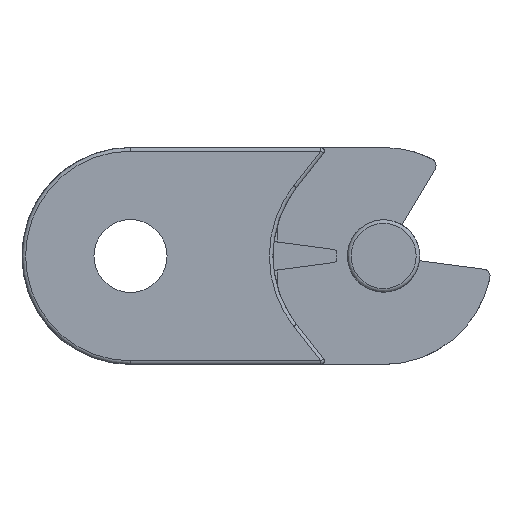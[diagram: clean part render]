
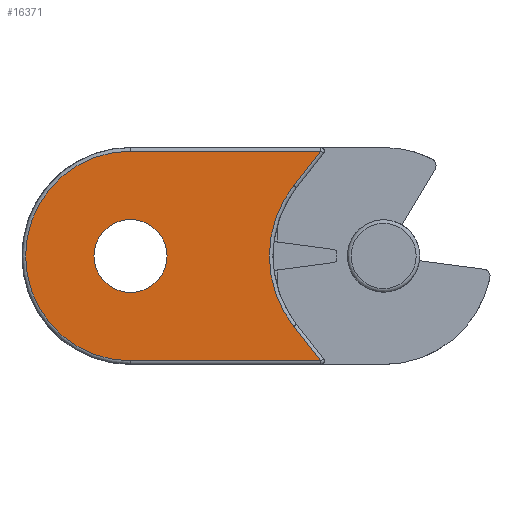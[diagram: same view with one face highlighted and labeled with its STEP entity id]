
A CAD part, left-side view. The second image highlights one B-rep face of the part: STEP entity #16371.
In plain terms, the highlighted planar face has unit normal (-1, 0, 0).
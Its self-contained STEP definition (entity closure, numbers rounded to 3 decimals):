
#12546=CARTESIAN_POINT('',(0.0,12.85,15.));
#12547=VERTEX_POINT('',#12546);
#12548=CARTESIAN_POINT('',(0.0,17.9,15.));
#12549=DIRECTION('',(-1.0,0.0,0.0));
#12550=DIRECTION('',(0.0,1.0,0.0));
#12551=AXIS2_PLACEMENT_3D('',#12548,#12549,#12550);
#12552=CIRCLE('',#12551,5.05);
#12553=EDGE_CURVE('',#12547,#12547,#12552,.T.);
#12992=CARTESIAN_POINT('',(0.,-8.393,0.5));
#12993=VERTEX_POINT('',#12992);
#13017=CARTESIAN_POINT('',(0.,-8.393,29.5));
#13018=VERTEX_POINT('',#13017);
#13043=CARTESIAN_POINT('',(0.,-4.668,5.249));
#13044=VERTEX_POINT('',#13043);
#13052=CARTESIAN_POINT('',(0.,-8.393,0.5));
#13053=DIRECTION('',(0.0,0.617,0.787));
#13054=VECTOR('',#13053,6.035);
#13055=LINE('',#13052,#13054);
#13056=EDGE_CURVE('',#12993,#13044,#13055,.T.);
#13090=CARTESIAN_POINT('',(0.,-4.668,24.751));
#13091=VERTEX_POINT('',#13090);
#13099=CARTESIAN_POINT('',(0.,-17.1,15.));
#13100=DIRECTION('',(1.0,0.0,0.0));
#13101=DIRECTION('',(0.0,1.,0.));
#13102=AXIS2_PLACEMENT_3D('',#13099,#13100,#13101);
#13103=CIRCLE('',#13102,15.8);
#13104=EDGE_CURVE('',#13044,#13091,#13103,.T.);
#13117=CARTESIAN_POINT('',(0.,-4.668,24.751));
#13118=DIRECTION('',(0.0,-0.617,0.787));
#13119=VECTOR('',#13118,6.035);
#13120=LINE('',#13117,#13119);
#13121=EDGE_CURVE('',#13091,#13018,#13120,.T.);
#13139=CARTESIAN_POINT('',(0.0,17.9,0.5));
#13140=VERTEX_POINT('',#13139);
#13157=CARTESIAN_POINT('',(0.0,17.9,0.5));
#13158=DIRECTION('',(0.0,-1.0,0.0));
#13159=VECTOR('',#13158,26.293);
#13160=LINE('',#13157,#13159);
#13161=EDGE_CURVE('',#13140,#12993,#13160,.T.);
#13171=CARTESIAN_POINT('',(0.0,17.9,29.5));
#13172=VERTEX_POINT('',#13171);
#13173=CARTESIAN_POINT('',(0.0,17.9,15.));
#13174=DIRECTION('',(-1.0,0.0,0.0));
#13175=DIRECTION('',(0.0,1.0,0.0));
#13176=AXIS2_PLACEMENT_3D('',#13173,#13174,#13175);
#13177=CIRCLE('',#13176,14.5);
#13178=EDGE_CURVE('',#13172,#13140,#13177,.T.);
#13213=CARTESIAN_POINT('',(0.,-8.393,29.5));
#13214=DIRECTION('',(0.0,1.0,0.0));
#13215=VECTOR('',#13214,26.293);
#13216=LINE('',#13213,#13215);
#13217=EDGE_CURVE('',#13018,#13172,#13216,.T.);
#16355=CARTESIAN_POINT('',(0.0,12.004,15.));
#16356=DIRECTION('',(-1.0,0.0,0.0));
#16357=DIRECTION('',(0.0,1.0,0.0));
#16358=AXIS2_PLACEMENT_3D('',#16355,#16356,#16357);
#16359=PLANE('',#16358);
#16360=ORIENTED_EDGE('',*,*,#13217,.T.);
#16361=ORIENTED_EDGE('',*,*,#13178,.T.);
#16362=ORIENTED_EDGE('',*,*,#13161,.T.);
#16363=ORIENTED_EDGE('',*,*,#13056,.T.);
#16364=ORIENTED_EDGE('',*,*,#13104,.T.);
#16365=ORIENTED_EDGE('',*,*,#13121,.T.);
#16366=EDGE_LOOP('',(#16360,#16361,#16362,#16363,#16364,#16365));
#16367=FACE_OUTER_BOUND('',#16366,.T.);
#16368=ORIENTED_EDGE('',*,*,#12553,.F.);
#16369=EDGE_LOOP('',(#16368));
#16370=FACE_BOUND('',#16369,.T.);
#16371=ADVANCED_FACE('',(#16367,#16370),#16359,.T.);
